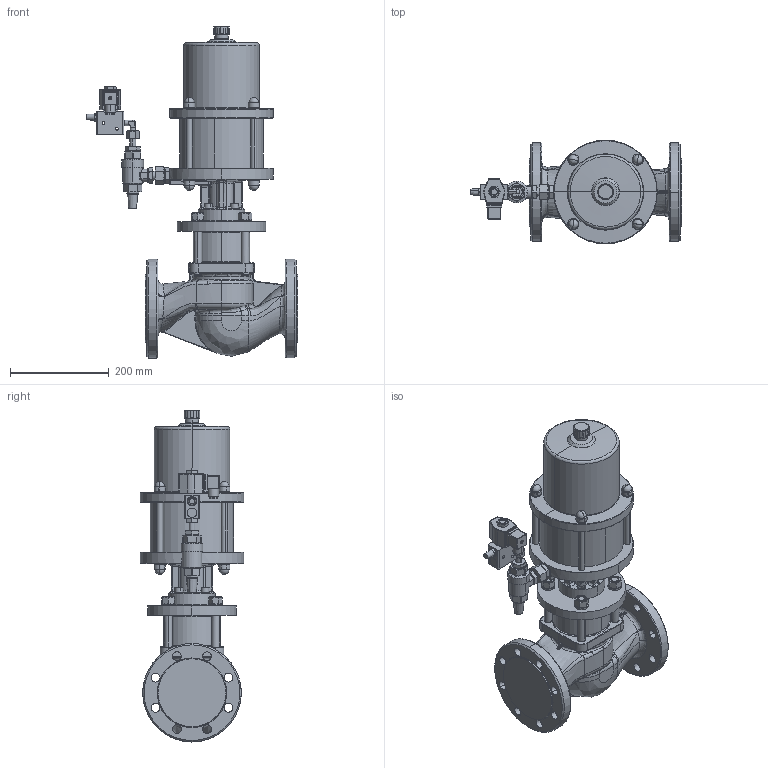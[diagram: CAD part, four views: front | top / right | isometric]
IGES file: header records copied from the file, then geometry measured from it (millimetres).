
Global section: file name: No Iges File Name specified; native system: AutoDesk Inventor R12.0; preprocessor: AutoDesk Inventor Iges Exporter R12.0; date: 20100607.132735; units: millimetre
Bounding box: 429.8 x 210 x 673.55 mm (x, y, z)
Volume: 12871640.4 mm3; surface area: 753869.9 mm2
Topology: 2 solids, 2 shells, 1583 faces, 4118 edges, 2551 vertices
Faces by surface type: plane 588, bspline 344, cylinder 267, cone 165, revolution 134, torus 52, sphere 33
